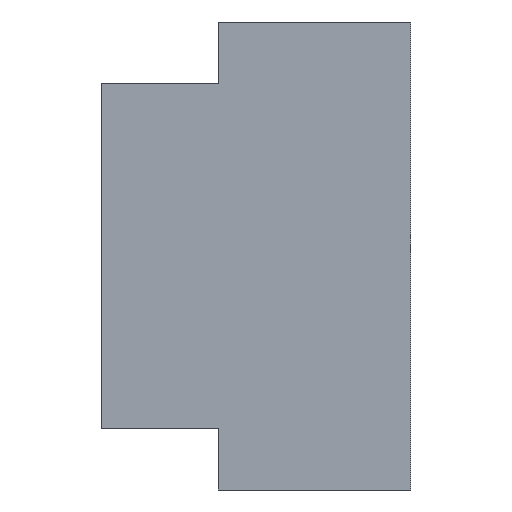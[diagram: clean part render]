
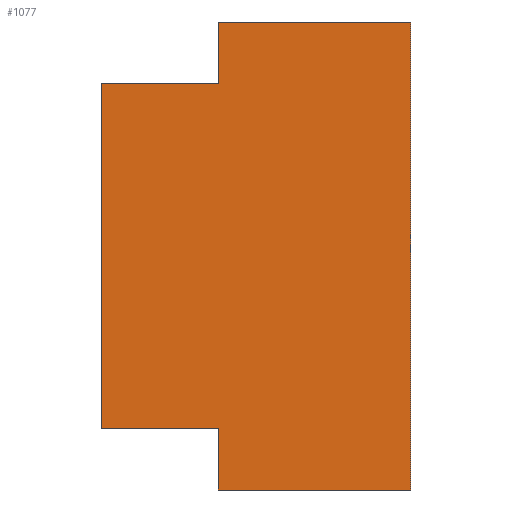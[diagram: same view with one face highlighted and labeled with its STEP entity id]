
A CAD part, front view. The second image highlights one B-rep face of the part: STEP entity #1077.
In plain terms, the highlighted planar face has unit normal (0, -1, 0).
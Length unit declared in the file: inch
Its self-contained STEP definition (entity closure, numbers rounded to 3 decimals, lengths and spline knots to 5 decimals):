
#21 = VERTEX_POINT ( 'NONE', #1372 ) ;
#70 = VECTOR ( 'NONE', #916, 39.37008 ) ;
#86 = LINE ( 'NONE', #195, #620 ) ;
#91 = ORIENTED_EDGE ( 'NONE', *, *, #799, .T. ) ;
#103 = DIRECTION ( 'NONE',  ( 0., 0., 1. ) ) ;
#104 = EDGE_CURVE ( 'NONE', #297, #173, #508, .T. ) ;
#141 = DIRECTION ( 'NONE',  ( 0., 0., -1. ) ) ;
#150 = AXIS2_PLACEMENT_3D ( 'NONE', #1025, #795, #103 ) ;
#173 = VERTEX_POINT ( 'NONE', #955 ) ;
#195 = CARTESIAN_POINT ( 'NONE',  ( -0.30906, -0.10236, 0.75 ) ) ;
#232 = ORIENTED_EDGE ( 'NONE', *, *, #1090, .F. ) ;
#241 = EDGE_CURVE ( 'NONE', #1210, #1495, #767, .T. ) ;
#255 = ORIENTED_EDGE ( 'NONE', *, *, #264, .T. ) ;
#264 = EDGE_CURVE ( 'NONE', #21, #1495, #362, .T. ) ;
#275 = CARTESIAN_POINT ( 'NONE',  ( 0.30906, -0.10236, 0.75 ) ) ;
#297 = VERTEX_POINT ( 'NONE', #606 ) ;
#347 = CARTESIAN_POINT ( 'NONE',  ( -0.30906, -0.10236, 0.75 ) ) ;
#350 = DIRECTION ( 'NONE',  ( 1., 0., 0. ) ) ;
#359 = FACE_OUTER_BOUND ( 'NONE', #411, .T. ) ;
#362 = LINE ( 'NONE', #844, #860 ) ;
#411 = EDGE_LOOP ( 'NONE', ( #903, #1357, #1407, #255, #874, #232, #91, #1365 ) ) ;
#429 = DIRECTION ( 'NONE',  ( 0., 0., -1. ) ) ;
#454 = CARTESIAN_POINT ( 'NONE',  ( -0.68406, -0.10236, 0.55315 ) ) ;
#456 = VECTOR ( 'NONE', #832, 39.37008 ) ;
#480 = VERTEX_POINT ( 'NONE', #634 ) ;
#508 = LINE ( 'NONE', #1137, #1501 ) ;
#518 = CARTESIAN_POINT ( 'NONE',  ( -0.68406, -0.10236, 0.55315 ) ) ;
#521 = LINE ( 'NONE', #669, #1422 ) ;
#565 = CARTESIAN_POINT ( 'NONE',  ( 0.30906, -0.10236, 0.75 ) ) ;
#606 = CARTESIAN_POINT ( 'NONE',  ( -0.30906, -0.10236, -0.75 ) ) ;
#620 = VECTOR ( 'NONE', #429, 39.37008 ) ;
#634 = CARTESIAN_POINT ( 'NONE',  ( -0.68406, -0.10236, -0.55315 ) ) ;
#669 = CARTESIAN_POINT ( 'NONE',  ( -0.68406, -0.10236, -0.55315 ) ) ;
#675 = PLANE ( 'NONE',  #150 ) ;
#717 = VERTEX_POINT ( 'NONE', #848 ) ;
#767 = LINE ( 'NONE', #518, #456 ) ;
#795 = DIRECTION ( 'NONE',  ( 0., 1., 0. ) ) ;
#799 = EDGE_CURVE ( 'NONE', #480, #717, #1197, .T. ) ;
#832 = DIRECTION ( 'NONE',  ( 1., 0., 0. ) ) ;
#844 = CARTESIAN_POINT ( 'NONE',  ( -0.30906, -0.10236, 0.75 ) ) ;
#848 = CARTESIAN_POINT ( 'NONE',  ( -0.30906, -0.10236, -0.55315 ) ) ;
#860 = VECTOR ( 'NONE', #141, 39.37008 ) ;
#874 = ORIENTED_EDGE ( 'NONE', *, *, #241, .F. ) ;
#903 = ORIENTED_EDGE ( 'NONE', *, *, #104, .T. ) ;
#916 = DIRECTION ( 'NONE',  ( 0., 0., -1. ) ) ;
#944 = DIRECTION ( 'NONE',  ( 1., 0., 0. ) ) ;
#955 = CARTESIAN_POINT ( 'NONE',  ( 0.30906, -0.10236, -0.75 ) ) ;
#972 = EDGE_CURVE ( 'NONE', #717, #297, #86, .T. ) ;
#996 = VECTOR ( 'NONE', #944, 39.37008 ) ;
#1003 = CARTESIAN_POINT ( 'NONE',  ( -0.30906, -0.10236, 0.55315 ) ) ;
#1025 = CARTESIAN_POINT ( 'NONE',  ( -0.30906, -0.10236, 0.75 ) ) ;
#1077 = ADVANCED_FACE ( 'NONE', ( #359 ), #675, .F. ) ;
#1090 = EDGE_CURVE ( 'NONE', #480, #1210, #521, .T. ) ;
#1137 = CARTESIAN_POINT ( 'NONE',  ( -0.30906, -0.10236, -0.75 ) ) ;
#1142 = DIRECTION ( 'NONE',  ( 0., 0., 1. ) ) ;
#1173 = EDGE_CURVE ( 'NONE', #1382, #173, #1272, .T. ) ;
#1197 = LINE ( 'NONE', #1430, #996 ) ;
#1198 = VECTOR ( 'NONE', #350, 39.37008 ) ;
#1210 = VERTEX_POINT ( 'NONE', #454 ) ;
#1258 = DIRECTION ( 'NONE',  ( 1., 0., 0. ) ) ;
#1272 = LINE ( 'NONE', #565, #70 ) ;
#1290 = EDGE_CURVE ( 'NONE', #21, #1382, #1412, .T. ) ;
#1357 = ORIENTED_EDGE ( 'NONE', *, *, #1173, .F. ) ;
#1365 = ORIENTED_EDGE ( 'NONE', *, *, #972, .T. ) ;
#1372 = CARTESIAN_POINT ( 'NONE',  ( -0.30906, -0.10236, 0.75 ) ) ;
#1382 = VERTEX_POINT ( 'NONE', #275 ) ;
#1407 = ORIENTED_EDGE ( 'NONE', *, *, #1290, .F. ) ;
#1412 = LINE ( 'NONE', #347, #1198 ) ;
#1422 = VECTOR ( 'NONE', #1142, 39.37008 ) ;
#1430 = CARTESIAN_POINT ( 'NONE',  ( -0.68406, -0.10236, -0.55315 ) ) ;
#1495 = VERTEX_POINT ( 'NONE', #1003 ) ;
#1501 = VECTOR ( 'NONE', #1258, 39.37008 ) ;
